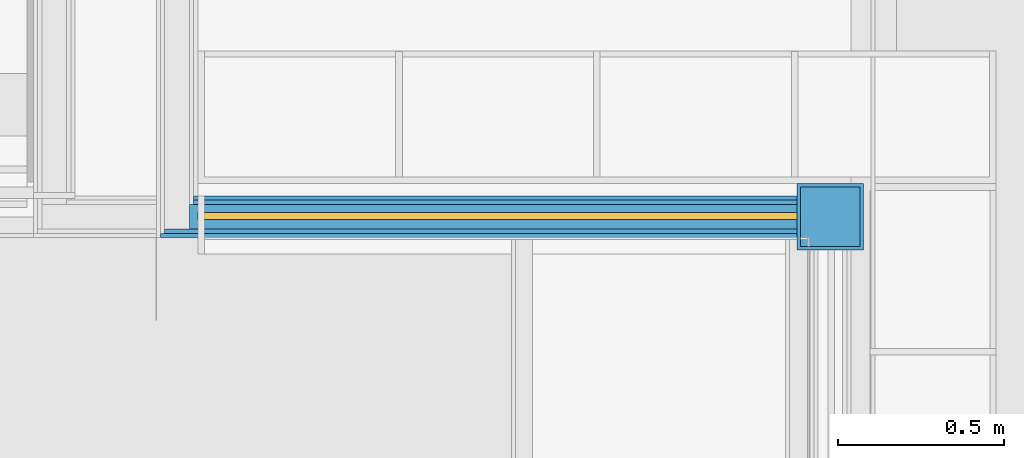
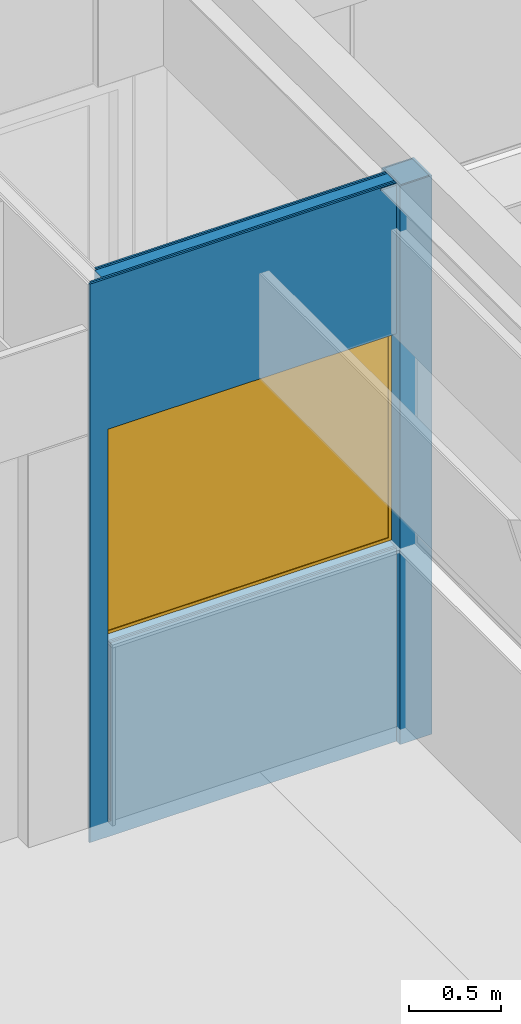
# One storey, part 79 of 137: 7 building element parts, 1 door, 1 opening, 2 elements without a shape of their own.
"""IFC2X3 building model written with IfcOpenShell, lengths in millimetres."""

from ifc_helpers import new_model, entity, si_unit, converted_unit, derived_unit, money_unit, direction, frame, origin_with_axes, place, context, subcontext, project, spatial, open_shell, faceted_brep, surface_model, material, type_object, element, fill, aggregate, save


model = new_model("IFC2X3")

# Units and contexts
model_context = context("Model", 3, precision=0.01, world=origin_with_axes(), true_north=direction((0.0, 1.0)))
body_context = subcontext(model_context, "Body", "Model", "MODEL_VIEW")
ifc_project = project(units=[si_unit("LENGTHUNIT", "METRE", prefix="MILLI"), si_unit("AREAUNIT", "SQUARE_METRE"), si_unit("VOLUMEUNIT", "CUBIC_METRE"), converted_unit("PLANEANGLEUNIT", "DEGREE", entity("IfcPlaneAngleMeasure", 0.0174532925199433), si_unit("PLANEANGLEUNIT", "RADIAN"), dimensions=[0, 0, 0, 0, 0, 0, 0]), money_unit("EUR"), converted_unit("TIMEUNIT", "Year", entity("IfcTimeMeasure", 31556926.0), si_unit("TIMEUNIT", "SECOND"), dimensions=[0, 0, 1, 0, 0, 0, 0]), si_unit("MASSUNIT", "GRAM", prefix="KILO"), si_unit("THERMODYNAMICTEMPERATUREUNIT", "DEGREE_CELSIUS"), si_unit("LUMINOUSINTENSITYUNIT", "LUMEN"), si_unit("ENERGYUNIT", "JOULE", prefix="MEGA"), derived_unit("THERMALCONDUCTANCEUNIT", [(si_unit("POWERUNIT", "WATT"), 1), (si_unit("LENGTHUNIT", "METRE"), -1), (si_unit("THERMODYNAMICTEMPERATUREUNIT", "KELVIN"), -1)]), derived_unit("SPECIFICHEATCAPACITYUNIT", [(si_unit("ENERGYUNIT", "JOULE"), 1), (si_unit("MASSUNIT", "GRAM", prefix="KILO"), -1), (si_unit("THERMODYNAMICTEMPERATUREUNIT", "KELVIN"), -1)]), derived_unit("MASSDENSITYUNIT", [(si_unit("MASSUNIT", "GRAM", prefix="KILO"), 1), (si_unit("VOLUMEUNIT", "CUBIC_METRE"), -1)])], contexts=[model_context])

# Site, building, storey
site_placement = place(None, origin_with_axes())
site = spatial("IfcSite", under=ifc_project, at=site_placement, Name="Site", CompositionType="ELEMENT")
building_placement = place(site_placement, origin_with_axes())
building = spatial("IfcBuilding", under=site, at=building_placement, Name="Naam gebouw", CompositionType="ELEMENT")
storey_placement = place(building_placement, frame((0.0, 0.0, 3960.0), z_axis=(0.0, 0.0, 1.0), x_axis=(1.0, 0.0, 0.0)))
storey = spatial("IfcBuildingStorey", under=building, at=storey_placement, Name="1e verdieping", CompositionType="ELEMENT", Elevation=3960.0)

# Door
door_style = type_object("IfcDoorStyle", Name="R1 26", ConstructionType="NOTDEFINED", OperationType="SINGLE_SWING_RIGHT", ParameterTakesPrecedence=False, Sizeable=False)
proxy_placement = place(storey_placement, frame((6940.0, 19449.9998112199, -100.0000000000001), z_axis=(0.0, 0.0, 1.0), x_axis=(1.0, 0.0, 0.0)))
opening_placement = place(proxy_placement, frame((905.0000268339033, 0.0, 1300.0), z_axis=(0.0, 0.0, 1.0), x_axis=(1.0, 0.0, 0.0)))
door_placement = place(opening_placement, frame((-904.9999731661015, 0.0, 0.0), z_axis=(0.0, 0.0, 1.0), x_axis=(1.0, 0.0, 0.0)))
door = element("IfcDoor", 1, at=door_placement, inside=storey, type_object=door_style, Name="_C.05", ObjectType="DOOR", OverallHeight=1400.0, OverallWidth=1810.0, context=body_context, shape_type="SurfaceModel", body=[
    faceted_brep([(1789.999946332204, 12.49999999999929, 19.99999999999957), (1789.999946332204, -7.500000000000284, 19.99999999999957), (1809.999946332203, -7.500000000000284, 19.99999999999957), (1809.999946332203, 12.49999999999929, 19.99999999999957), (19.99999999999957, 12.49999999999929, 19.99999999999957), (19.99999999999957, -7.500000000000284, 19.99999999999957), (0.0, -7.500000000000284, 19.99999999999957), (0.0, -7.500000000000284, 0.0), (1809.999946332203, -7.500000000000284, 0.0), (1809.999946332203, 12.49999999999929, 0.0), (0.0, 12.49999999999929, 0.0), (0.0, 12.49999999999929, 19.99999999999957)], [[[0, 1, 2, 3]], [[4, 5, 1, 0]], [[2, 1, 5, 6, 7, 8]], [[3, 2, 8, 9]], [[4, 0, 3, 9, 10, 11]], [[11, 6, 5, 4]], [[10, 7, 6, 11]], [[9, 8, 7, 10]]]),
    faceted_brep([(1789.999946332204, -7.500000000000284, 1380.0), (1809.999946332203, -7.500000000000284, 1380.0), (1809.999946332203, 12.49999999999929, 1380.0), (1789.999946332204, 12.49999999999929, 1380.0), (1789.999946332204, -7.500000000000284, 19.99999999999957), (1809.999946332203, -7.500000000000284, 19.99999999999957), (1809.999946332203, 12.49999999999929, 19.99999999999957), (1789.999946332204, 12.49999999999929, 19.99999999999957)], [[[0, 1, 2, 3]], [[0, 4, 5, 1]], [[1, 5, 6, 2]], [[3, 2, 6, 7]], [[4, 0, 3, 7]], [[5, 4, 7, 6]]]),
    faceted_brep([(19.99999999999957, -7.500000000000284, 19.99999999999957), (0.0, -7.500000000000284, 19.99999999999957), (0.0, 12.49999999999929, 19.99999999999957), (19.99999999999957, 12.49999999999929, 19.99999999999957), (19.99999999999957, -7.500000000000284, 1380.0), (0.0, -7.500000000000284, 1380.0), (0.0, 12.49999999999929, 1380.0), (19.99999999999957, 12.49999999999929, 1380.0)], [[[0, 1, 2, 3]], [[0, 4, 5, 1]], [[1, 5, 6, 2]], [[3, 2, 6, 7]], [[4, 0, 3, 7]], [[5, 4, 7, 6]]]),
    faceted_brep([(19.99999999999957, -7.500000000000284, 1380.0), (0.0, -7.500000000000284, 1380.0), (0.0, 12.49999999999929, 1380.0), (19.99999999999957, 12.49999999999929, 1380.0), (1789.999946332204, -7.500000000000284, 1380.0), (1809.999946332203, -7.500000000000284, 1380.0), (1809.999946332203, -7.500000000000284, 1400.0), (0.0, -7.500000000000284, 1400.0), (0.0, 12.49999999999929, 1400.0), (1809.999946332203, 12.49999999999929, 1400.0), (1809.999946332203, 12.49999999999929, 1380.0), (1789.999946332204, 12.49999999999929, 1380.0)], [[[0, 1, 2, 3]], [[0, 4, 5, 6, 7, 1]], [[1, 7, 8, 2]], [[3, 2, 8, 9, 10, 11]], [[4, 0, 3, 11]], [[5, 4, 11, 10]], [[6, 5, 10, 9]], [[7, 6, 9, 8]]]),
    surface_model("IfcShellBasedSurfaceModel", [(1789.999946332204, -2.500000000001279, 19.99999999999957), (1789.999946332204, -2.500000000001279, 1380.0), (19.99999999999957, -2.500000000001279, 1380.0), (19.99999999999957, -2.500000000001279, 19.99999999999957)], [open_shell([[[0, 1, 2, 3]]])]),
    surface_model("IfcShellBasedSurfaceModel", [(1789.999946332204, 7.500000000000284, 19.99999999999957), (19.99999999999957, 7.500000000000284, 19.99999999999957), (19.99999999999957, 7.500000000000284, 1380.0), (1789.999946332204, 7.500000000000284, 1380.0)], [open_shell([[[0, 1, 2, 3]]])]),
])

# Proxy, opening
building_element_proxy_type = type_object("IfcBuildingElementProxyType", Name="22 Metal stud 125 gips 125", PredefinedType="NOTDEFINED")
proxy = element("IfcBuildingElementProxy", 2, at=proxy_placement, inside=storey, type_object=building_element_proxy_type, Name="_Wand-x")
opening = element("IfcOpeningElement", 3, at=opening_placement, cuts=proxy, Name="_C.05", context=body_context, shape_type="Brep", body=[
    faceted_brep([(-904.9999731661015, 12.49999999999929, 0.0), (-904.9999731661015, 12.49999999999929, 1400.0), (-904.9999731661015, 63.50000000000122, 1400.0), (-904.9999731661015, 63.50000000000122, 0.0), (-904.9999731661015, -63.50000000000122, 0.0), (-904.9999731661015, -63.50000000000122, 1400.0), (904.9999731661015, 12.49999999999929, 1400.0), (904.9999731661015, 63.50000000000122, 1400.0), (904.9999731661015, -63.50000000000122, 1400.0), (904.9999731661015, 63.50000000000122, 0.0), (904.9999731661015, 12.49999999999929, 0.0), (904.9999731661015, -63.50000000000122, 0.0)], [[[0, 1, 2, 3]], [[1, 0, 4, 5]], [[6, 7, 2, 1, 5, 8]], [[7, 9, 3, 2]], [[0, 3, 9, 10, 11, 4]], [[5, 4, 11, 8]], [[6, 10, 9, 7]], [[10, 6, 8, 11]]]),
])

fill(opening, door)

# Building element part
ifc_material_1 = material(Name="Gipsplaat")
building_element_part_1_placement = place(proxy_placement, origin_with_axes())
building_element_part_1 = element("IfcBuildingElementPart", 4, at=building_element_part_1_placement, material=ifc_material_1, Name="Gipsplaat", context=body_context, shape_type="Brep", body=[
    faceted_brep([(-0.0002798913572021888, 62.49999999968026, 100.0000000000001), (19.99972010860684, 62.50003812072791, 100.0000000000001), (19.99972010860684, 62.50003812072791, 1280.000000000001), (1810.000000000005, 62.5, 1280.000000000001), (1810.000000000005, 62.5, 0.0), (-12.50000000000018, 62.5, 0.0), (-12.50000000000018, 62.5, 3700.0), (1809.005233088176, 62.5, 3700.0), (1809.005233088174, 62.5, 3695.000002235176), (1710.005233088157, 62.5, 3695.000002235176), (1710.005233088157, 62.5, 3683.000002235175), (1810.000000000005, 62.5, 3683.000002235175), (1810.000000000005, 62.5, 2700.0), (5.366780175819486e-05, 62.5, 2700.0), (5.366779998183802e-05, 62.5, 1300.0), (5.366779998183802e-05, 62.49999999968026, 1280.000000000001), (-0.0002560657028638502, 50.00000000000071, 100.0000000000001), (19.99974393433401, 50.00000000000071, 100.0000000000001), (19.99974393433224, 50.00000000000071, 1280.000000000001), (1810.000000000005, 50.00000000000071, 1280.000000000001), (1810.000000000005, 50.00000000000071, 0.0), (-12.50000000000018, 50.00000000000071, 0.0), (-12.50000000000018, 50.00000000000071, 3700.0), (1809.005225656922, 50.00000000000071, 3700.0), (1809.005225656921, 50.00000000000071, 3695.000002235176), (1710.005225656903, 50.00000000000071, 3695.000002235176), (1710.005225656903, 50.00000000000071, 3683.000002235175), (1810.000000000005, 50.00000000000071, 3683.000002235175), (1810.000000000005, 50.00000000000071, 2700.0), (5.366780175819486e-05, 50.00000000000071, 2700.0), (5.366779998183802e-05, 50.00000000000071, 1300.0), (5.366779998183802e-05, 49.99999999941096, 1280.000000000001)], [[[0, 1, 2, 3, 4, 5, 6, 7, 8, 9, 10, 11, 12, 13, 14, 15]], [[1, 0, 16, 17]], [[18, 2, 1, 17]], [[2, 18, 19, 3]], [[4, 3, 19, 20]], [[5, 4, 20, 21]], [[21, 22, 6, 5]], [[6, 22, 23, 7]], [[23, 24, 8, 7]], [[24, 25, 9, 8]], [[25, 26, 10, 9]], [[26, 27, 11, 10]], [[11, 27, 28, 12]], [[28, 29, 13, 12]], [[29, 30, 14, 13]], [[31, 16, 0, 15, 14, 30]], [[16, 31, 30, 29, 28, 27, 26, 25, 24, 23, 22, 21, 20, 19, 18, 17]]]),
])

building_element_part_2_placement = place(proxy_placement, origin_with_axes())
building_element_part_2 = element("IfcBuildingElementPart", 5, at=building_element_part_2_placement, material=ifc_material_1, Name="Gipsplaat", context=body_context, shape_type="Brep", body=[
    faceted_brep([(-8.928612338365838e-05, -37.49999999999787, 100.0000000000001), (19.99991071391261, -37.49999999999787, 100.0000000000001), (19.99991071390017, -37.49999999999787, 1280.000000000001), (1810.000000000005, -37.50000000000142, 1280.000000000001), (1810.000000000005, -37.50000000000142, 0.0), (-99.99999999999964, -37.50000000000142, 0.0), (-99.99999999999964, -37.50000000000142, 3700.0), (1809.005173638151, -37.49999999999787, 3700.0), (1809.005173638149, -37.50000000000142, 3695.000002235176), (1710.005173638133, -37.50000000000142, 3695.000002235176), (1710.005173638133, -37.50000000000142, 3683.000002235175), (1810.000000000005, -37.49999999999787, 3683.000002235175), (1810.000000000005, -37.49999999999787, 2700.0), (5.366780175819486e-05, -37.49999999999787, 2700.0), (5.366779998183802e-05, -37.49999999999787, 1300.0), (5.366779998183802e-05, -37.50000000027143, 1280.000000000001), (-6.546046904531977e-05, -50.00000000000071, 100.0000000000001), (19.99993453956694, -50.00000000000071, 100.0000000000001), (19.99993453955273, -50.00000000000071, 1280.000000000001), (1810.000000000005, -50.00000000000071, 1280.000000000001), (1810.000000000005, -50.00000000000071, 0.0), (-99.99999999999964, -50.00000000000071, 0.0), (-99.99999999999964, -50.00000000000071, 3700.0), (1809.005166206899, -50.00000000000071, 3700.0), (1809.005166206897, -50.00000000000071, 3695.000002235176), (1710.005166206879, -50.00000000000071, 3695.000002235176), (1710.005166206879, -50.00000000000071, 3683.000002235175), (1810.000000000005, -50.00000000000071, 3683.000002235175), (1810.000000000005, -50.00000000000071, 2700.0), (5.366780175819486e-05, -50.00000000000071, 2700.0), (5.366779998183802e-05, -50.00000000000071, 1300.0), (5.366779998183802e-05, -50.00000000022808, 1280.000000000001)], [[[0, 1, 2, 3, 4, 5, 6, 7, 8, 9, 10, 11, 12, 13, 14, 15]], [[1, 0, 16, 17]], [[18, 2, 1, 17]], [[2, 18, 19, 3]], [[4, 3, 19, 20]], [[5, 4, 20, 21]], [[21, 22, 6, 5]], [[6, 22, 23, 7]], [[23, 24, 8, 7]], [[24, 25, 9, 8]], [[25, 26, 10, 9]], [[26, 27, 11, 10]], [[11, 27, 28, 12]], [[28, 29, 13, 12]], [[29, 30, 14, 13]], [[31, 16, 0, 15, 14, 30]], [[16, 31, 30, 29, 28, 27, 26, 25, 24, 23, 22, 21, 20, 19, 18, 17]]]),
])

building_element_part_3_placement = place(proxy_placement, origin_with_axes())
building_element_part_3 = element("IfcBuildingElementPart", 6, at=building_element_part_3_placement, material=ifc_material_1, Name="Gipsplaat", context=body_context, shape_type="Brep", body=[
    faceted_brep([(-0.0002560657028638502, 50.00000000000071, 100.0000000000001), (19.99974393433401, 50.00000000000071, 100.0000000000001), (19.99974393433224, 50.00000000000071, 1280.000000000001), (1810.000000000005, 50.00000000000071, 1280.000000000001), (1810.000000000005, 50.00000000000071, 0.0), (-12.50000000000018, 50.00000000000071, 0.0), (-12.50000000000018, 50.00000000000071, 3700.0), (1809.005225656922, 50.00000000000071, 3700.0), (1809.005225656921, 50.00000000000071, 3695.000002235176), (1710.005225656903, 50.00000000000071, 3695.000002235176), (1710.005225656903, 50.00000000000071, 3683.000002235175), (1810.000000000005, 50.00000000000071, 3683.000002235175), (1810.000000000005, 50.00000000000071, 2700.0), (5.366780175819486e-05, 50.00000000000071, 2700.0), (5.366779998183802e-05, 50.00000000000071, 1300.0), (5.366779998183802e-05, 49.99999999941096, 1280.000000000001), (-0.0002322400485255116, 37.50000000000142, 100.0000000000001), (19.99976775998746, 37.50000000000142, 100.0000000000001), (19.9997677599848, 37.50000000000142, 1280.000000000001), (1810.000000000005, 37.50000000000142, 1280.000000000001), (1810.000000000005, 37.50000000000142, 0.0), (-12.50000000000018, 37.50000000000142, 0.0), (-12.50000000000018, 37.50000000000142, 3700.0), (1809.00521822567, 37.50000000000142, 3700.0), (1809.005218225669, 37.50000000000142, 3695.000002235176), (1710.005218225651, 37.50000000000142, 3695.000002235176), (1710.005218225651, 37.50000000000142, 3683.000002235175), (1810.000000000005, 37.50000000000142, 3683.000002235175), (1810.000000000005, 37.50000000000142, 2700.0), (5.366780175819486e-05, 37.50000000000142, 2700.0), (5.366779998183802e-05, 37.50000000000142, 1300.0), (5.366779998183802e-05, 37.49999999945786, 1280.000000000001)], [[[0, 1, 2, 3, 4, 5, 6, 7, 8, 9, 10, 11, 12, 13, 14, 15]], [[1, 0, 16, 17]], [[18, 2, 1, 17]], [[2, 18, 19, 3]], [[4, 3, 19, 20]], [[5, 4, 20, 21]], [[21, 22, 6, 5]], [[6, 22, 23, 7]], [[23, 24, 8, 7]], [[24, 25, 9, 8]], [[25, 26, 10, 9]], [[26, 27, 11, 10]], [[11, 27, 28, 12]], [[28, 29, 13, 12]], [[29, 30, 14, 13]], [[31, 16, 0, 15, 14, 30]], [[16, 31, 30, 29, 28, 27, 26, 25, 24, 23, 22, 21, 20, 19, 18, 17]]]),
])

building_element_part_4_placement = place(proxy_placement, origin_with_axes())
building_element_part_4 = element("IfcBuildingElementPart", 7, at=building_element_part_4_placement, material=ifc_material_1, Name="Gipsplaat", context=body_context, shape_type="Brep", body=[
    faceted_brep([(-6.546046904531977e-05, -50.00000000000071, 100.0000000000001), (19.99993453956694, -50.00000000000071, 100.0000000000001), (19.99993453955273, -50.00000000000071, 1280.000000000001), (1810.000000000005, -50.00000000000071, 1280.000000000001), (1810.000000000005, -50.00000000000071, 0.0), (-112.4999999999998, -50.00000000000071, 0.0), (-112.4999999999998, -50.00000000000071, 3700.0), (1809.005166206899, -50.00000000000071, 3700.0), (1809.005166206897, -50.00000000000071, 3695.000002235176), (1710.005166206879, -50.00000000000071, 3695.000002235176), (1710.005166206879, -50.00000000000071, 3683.000002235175), (1810.000000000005, -50.00000000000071, 3683.000002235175), (1810.000000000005, -50.00000000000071, 2700.0), (5.366780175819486e-05, -50.00000000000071, 2700.0), (5.366779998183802e-05, -50.00000000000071, 1300.0), (5.366779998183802e-05, -50.00000000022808, 1280.000000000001), (-4.163481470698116e-05, -62.5, 100.0000000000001), (19.99995836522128, -62.5, 100.0000000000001), (19.99995836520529, -62.5, 1280.000000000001), (1810.000000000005, -62.5, 1280.000000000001), (1810.000000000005, -62.5, 0.0), (-112.4999999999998, -62.5, 0.0), (-112.4999999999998, -62.5, 3700.0), (1809.005158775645, -62.5, 3700.0), (1809.005158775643, -62.5, 3695.000002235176), (1710.005158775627, -62.5, 3695.000002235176), (1710.005158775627, -62.5, 3683.000002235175), (1810.000000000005, -62.5, 3683.000002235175), (1810.000000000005, -62.5, 2700.0), (5.366780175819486e-05, -62.5, 2700.0), (5.366779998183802e-05, -62.5, 1300.0), (5.366779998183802e-05, -62.50000000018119, 1280.000000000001)], [[[0, 1, 2, 3, 4, 5, 6, 7, 8, 9, 10, 11, 12, 13, 14, 15]], [[1, 0, 16, 17]], [[18, 2, 1, 17]], [[2, 18, 19, 3]], [[4, 3, 19, 20]], [[5, 4, 20, 21]], [[21, 22, 6, 5]], [[6, 22, 23, 7]], [[23, 24, 8, 7]], [[24, 25, 9, 8]], [[25, 26, 10, 9]], [[26, 27, 11, 10]], [[11, 27, 28, 12]], [[28, 29, 13, 12]], [[29, 30, 14, 13]], [[31, 16, 0, 15, 14, 30]], [[16, 31, 30, 29, 28, 27, 26, 25, 24, 23, 22, 21, 20, 19, 18, 17]]]),
])

ifc_material_2 = material(Name="ALG - LICHTE SCHEIDINGSWAND")
building_element_part_5_placement = place(proxy_placement, origin_with_axes())
building_element_part_5 = element("IfcBuildingElementPart", 8, at=building_element_part_5_placement, material=ifc_material_2, Name="ALG - LICHTE SCHEIDINGSWAND", context=body_context, shape_type="Brep", body=[
    faceted_brep([(-0.0002322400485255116, 37.50000000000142, 100.0000000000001), (19.99976775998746, 37.50000000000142, 100.0000000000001), (19.9997677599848, 37.50000000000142, 1280.000000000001), (1810.000000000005, 37.50000000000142, 1280.000000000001), (1810.000000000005, 37.50000000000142, 0.0), (-25.00000000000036, 37.50000000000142, 0.0), (-25.00000000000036, 37.50000000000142, 3700.0), (1809.00521822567, 37.50000000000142, 3700.0), (1809.005218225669, 37.50000000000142, 3695.000002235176), (1710.005218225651, 37.50000000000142, 3695.000002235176), (1710.005218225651, 37.50000000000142, 3683.000002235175), (1810.000000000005, 37.50000000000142, 3683.000002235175), (1810.000000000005, 37.50000000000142, 2700.0), (5.366780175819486e-05, 37.50000000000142, 2700.0), (5.366779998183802e-05, 37.50000000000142, 1300.0), (5.366779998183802e-05, 37.49999999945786, 1280.000000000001), (-8.928612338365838e-05, -37.49999999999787, 100.0000000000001), (19.99991071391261, -37.49999999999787, 100.0000000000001), (19.99991071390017, -37.49999999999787, 1280.000000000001), (1810.000000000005, -37.50000000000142, 1280.000000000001), (1810.000000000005, -37.50000000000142, 0.0), (-25.00000000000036, -37.50000000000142, 0.0), (-25.00000000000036, -37.50000000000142, 3700.0), (1809.005173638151, -37.49999999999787, 3700.0), (1809.005173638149, -37.49999999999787, 3695.000002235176), (1710.005173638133, -37.49999999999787, 3695.000002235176), (1710.005173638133, -37.49999999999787, 3683.000002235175), (1810.000000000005, -37.49999999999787, 3683.000002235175), (1810.000000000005, -37.49999999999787, 2700.0), (5.366780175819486e-05, -37.49999999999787, 2700.0), (5.366779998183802e-05, -37.49999999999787, 1300.0), (5.366779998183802e-05, -37.50000000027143, 1280.000000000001)], [[[0, 1, 2, 3, 4, 5, 6, 7, 8, 9, 10, 11, 12, 13, 14, 15]], [[1, 0, 16, 17]], [[18, 2, 1, 17]], [[2, 18, 19, 3]], [[4, 3, 19, 20]], [[4, 20, 21, 5]], [[22, 6, 5, 21]], [[22, 23, 7, 6]], [[24, 8, 7, 23]], [[25, 9, 8, 24]], [[26, 10, 9, 25]], [[27, 11, 10, 26]], [[11, 27, 28, 12]], [[13, 12, 28, 29]], [[29, 30, 14, 13]], [[31, 16, 0, 15, 14, 30]], [[16, 31, 30, 29, 28, 27, 26, 25, 24, 23, 22, 21, 20, 19, 18, 17]]]),
])

aggregate(proxy, [building_element_part_1, building_element_part_2, building_element_part_3, building_element_part_4, building_element_part_5])

# Column, building element parts
column_type = type_object("IfcColumnType", Name="200X200X10 200 x 200", PredefinedType="COLUMN")
column_placement = place(storey_placement, frame((8850.000000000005, 19449.9998112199, -100.0000000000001), z_axis=(0.0, 0.0, 1.0), x_axis=(1.0, 0.0, 0.0)))
column = element("IfcColumn", 9, at=column_placement, inside=storey, type_object=column_type, Name="28_Kolom-x", ObjectType="COLUMN")
ifc_material_3 = material(Name="Beton gewapend C")
building_element_part_6_placement = place(column_placement, origin_with_axes())
building_element_part_6 = element("IfcBuildingElementPart", 10, at=building_element_part_6_placement, material=ifc_material_3, Name="Beton gewapend C", context=body_context, shape_type="Brep", body=[
    faceted_brep([(-89.99999999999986, 89.99999999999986, 3683.000002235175), (89.99999999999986, 89.99999999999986, 3683.000002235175), (89.99999999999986, 89.99999999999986, 0.0), (-89.99999999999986, 89.99999999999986, 0.0), (89.99999999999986, -89.99999999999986, 3683.000002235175), (-89.99999999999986, -89.99999999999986, 3683.000002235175), (89.99999999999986, -89.99999999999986, 0.0), (-89.99999999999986, -89.99999999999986, 0.0)], [[[0, 1, 2, 3]], [[4, 1, 0, 5]], [[1, 4, 6, 2]], [[2, 6, 7, 3]], [[5, 0, 3, 7]], [[4, 5, 7, 6]]]),
    faceted_brep([(89.99999999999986, -89.99999999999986, 3695.000002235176), (89.99999999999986, 89.99999999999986, 3695.000002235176), (89.99999999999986, 89.99999999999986, 3699.999999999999), (89.99999999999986, -89.99999999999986, 3699.999999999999), (-89.99999999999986, 89.99999999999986, 3695.000002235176), (-89.99999999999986, -89.99999999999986, 3695.000002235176), (-89.99999999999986, 89.99999999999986, 3699.999999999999), (-89.99999999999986, -89.99999999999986, 3699.999999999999)], [[[0, 1, 2, 3]], [[4, 1, 0, 5]], [[1, 4, 6, 2]], [[2, 6, 7, 3]], [[5, 0, 3, 7]], [[4, 5, 7, 6]]]),
])
ifc_material_4 = material(Name="Metaal - Staal C")
building_element_part_7_placement = place(column_placement, origin_with_axes())
building_element_part_7 = element("IfcBuildingElementPart", 11, at=building_element_part_7_placement, material=ifc_material_4, Name="Metaal - Staal C", context=body_context, shape_type="Brep", body=[
    faceted_brep([(-99.99999999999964, -100.0000000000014, 0.0), (99.99999999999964, -100.0000000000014, 0.0), (99.99999999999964, -100.0000000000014, 3699.999999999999), (-99.99999999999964, -100.0000000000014, 3699.999999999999), (-99.99999999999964, 100.0000000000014, 0.0), (99.99999999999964, 100.0000000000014, 0.0), (-89.99999999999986, -89.99999999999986, 0.0), (89.99999999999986, -89.99999999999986, 0.0), (89.99999999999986, 89.99999999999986, 0.0), (-89.99999999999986, 89.99999999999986, 0.0), (99.99999999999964, 100.0000000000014, 3699.999999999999), (-99.99999999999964, 100.0000000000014, 3699.999999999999), (-89.99999999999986, -89.99999999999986, 3699.999999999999), (-89.99999999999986, 89.99999999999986, 3699.999999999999), (89.99999999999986, 89.99999999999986, 3699.999999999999), (89.99999999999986, -89.99999999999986, 3699.999999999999)], [[[0, 1, 2, 3]], [[0, 4, 5, 1], [6, 7, 8, 9]], [[1, 5, 10, 2]], [[3, 2, 10, 11], [12, 13, 14, 15]], [[4, 0, 3, 11]], [[5, 4, 11, 10]], [[7, 6, 12, 15]], [[8, 7, 15, 14]], [[9, 8, 14, 13]], [[6, 9, 13, 12]]]),
])
aggregate(column, [building_element_part_6, building_element_part_7])

save(model, "model.ifc")
